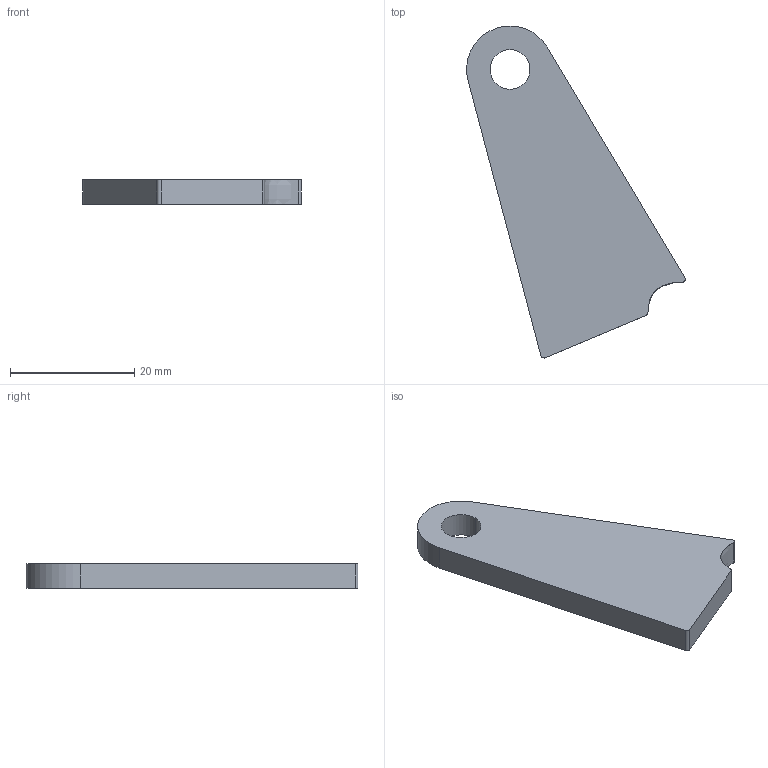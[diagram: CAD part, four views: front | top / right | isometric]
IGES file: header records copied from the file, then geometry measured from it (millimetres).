
Start section: START RECORD GO HERE.
Global section: file name: 20M_RU_FD.igs; native system: IBM CATIA IGES - CATIA Version 5 Release 19 ; preprocessor: CATIA Version 5 Release 19 ; author: alexb; organization: LAPTOP-PR6NE7IP; date: 20191216.220124; units: millimetre
Bounding box: 35.21 x 53.48 x 4 mm (x, y, z)
Surface area: 2518.8 mm2 (no closed solid volume)
Topology: 0 solids, 0 shells, 12 faces, 60 edges, 62 vertices
Faces by surface type: revolution 6, plane 5, extrusion 1
